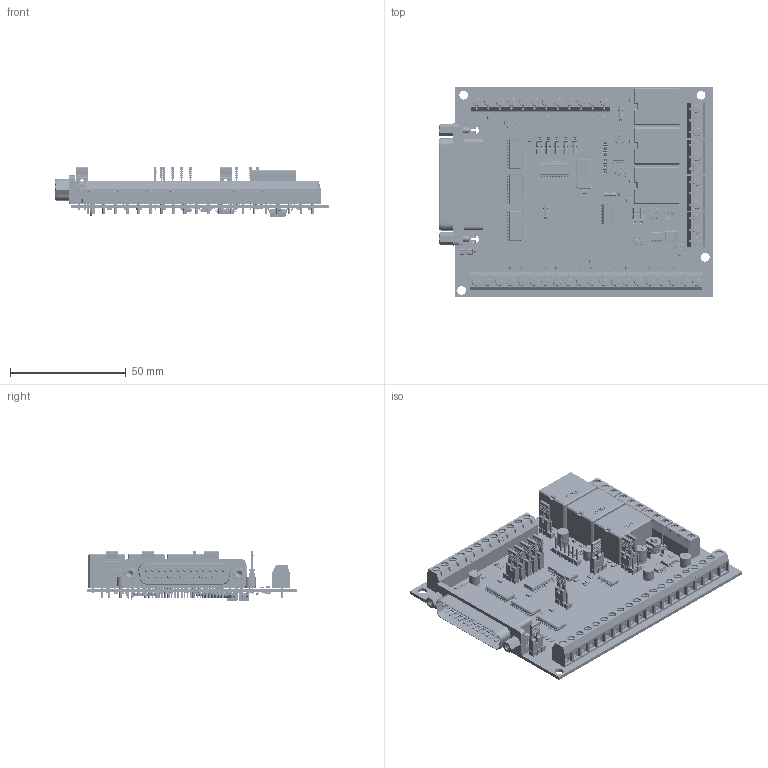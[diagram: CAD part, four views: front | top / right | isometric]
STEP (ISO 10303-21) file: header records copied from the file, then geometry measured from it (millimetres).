
FILE_DESCRIPTION(('KiCad electronic assembly'),'2;1');
FILE_NAME('C11G_9.3.step','2026-06-09T10:18:16',('Pcbnew'),('Kicad'), 'Open CASCADE STEP processor 7.9','KiCad to STEP converter','Unknown' );
FILE_SCHEMA(('AUTOMOTIVE_DESIGN { 1 0 10303 214 1 1 1 1 }'));
Length unit declared in the file: millimetre
Products named in the file (64): C11G_9.3 1; R SMD 0805; User Library-R SMD 0805_0805 BODY; User Library-R SMD 0805_0805 PAD; User Library-R SMD 0805_0805 OPIS; 444444; User_Library-DG301-5.0-2P12_DG301-5.001; User_Library-DG301-5.0-2P12_DG301-5.0-Blaszka001; User_Library-DG301-5.0-2P12_DG301-5.0-Sruba001; User_Library-DG301-5.0-2P12_DG301-5.0-PIN; LED0805_red; ter-DG301-5.0-3P12_DG301-5.0; User_Library-DG301-5.0-3P12_DG301-5.001; User_Library-DG301-5.0-3P12_DG301-5.0-Blaszka001; User_Library-DG301-5.0-3P12_DG301-5.0-PIN002; User_Library-DG301-5.0-3P12_DG301-5.0-Sruba; PIC 12F508; SIP3; User Library-Mini Jumper; C0805; 74585_1; 74585_2; 74585_3; 74585_4; 74585_5; 74585_6; NS-PDSO-20; Cap electrolitic radial 5x7; User Library-Cap electrolitic radial 5x7_Case; User Library-Cap electrolitic radial 5x7_Minus; User Library-Cap electrolitic radial 5x7_Top; User Library-Cap electrolitic radial 5x7_Pins; User Library-Cap electrolitic radial 5x7_Bottom; Cap electrolitic radial 5x5; User Library-Cap electrolitic radial 5x5_Case; User Library-Cap electrolitic radial 5x5_Minus; User Library-Cap electrolitic radial 5x5_Top; User Library-Cap electrolitic radial 5x5_Pins; User Library-Cap electrolitic radial 5x5_Bottom; RELAY  12MMx12MM SQUARE-1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
Assembly tree (255 placements, depth 3):
  C11G_9.3 1
    R SMD 0805  x73
      User Library-R SMD 0805_0805 BODY
      User Library-R SMD 0805_0805 PAD
      User Library-R SMD 0805_0805 OPIS
    444444  x16
      User_Library-DG301-5.0-2P12_DG301-5.001
      User_Library-DG301-5.0-2P12_DG301-5.0-Blaszka001
      User_Library-DG301-5.0-2P12_DG301-5.0-Sruba001
      User_Library-DG301-5.0-2P12_DG301-5.0-PIN
    LED0805_red  x21
    ter-DG301-5.0-3P12_DG301-5.0  x4
      User_Library-DG301-5.0-3P12_DG301-5.001
      User_Library-DG301-5.0-3P12_DG301-5.0-Blaszka001
      User_Library-DG301-5.0-3P12_DG301-5.0-PIN002
      User_Library-DG301-5.0-3P12_DG301-5.0-Sruba
    PIC 12F508
    SIP3  x13
    User Library-Mini Jumper  x11
    C0805  x20
      74585_1
      74585_2
      74585_3
      74585_4
      74585_5
      74585_6
    NS-PDSO-20  x5
    Cap electrolitic radial 5x7  x2
      User Library-Cap electrolitic radial 5x7_Case
      User Library-Cap electrolitic radial 5x7_Minus
      User Library-Cap electrolitic radial 5x7_Top
      User Library-Cap electrolitic radial 5x7_Pins
      User Library-Cap electrolitic radial 5x7_Bottom
    Cap electrolitic radial 5x5  x4
      User Library-Cap electrolitic radial 5x5_Case
      User Library-Cap electrolitic radial 5x5_Minus
      User Library-Cap electrolitic radial 5x5_Top
      User Library-Cap electrolitic radial 5x5_Pins
      User Library-Cap electrolitic radial 5x5_Bottom
    RELAY  12MMx12MM SQUARE-1  x3
    SO14N  x2
      User Library-SO-14N__X2_041A043E0440043F04430441_X0_
      User Library-SO-14N__X2_041C04350442043A0430_X0_
      User Library-SO-14N__X2_041D043E0436043A0430_X0_
    SO8  x2
      User Library-SOIC-8_SOIC-8_Body_1
      User Library-SOIC-8_SOIC-8_Pins_1
    DBPN1M-25
    Trimmer, 3306F-1
      User Library-Trimmer, 3306F-1_1_2
      User Library-Trimmer, 3306F-1_2_2
      User Library-Trimmer, 3306F-1_3_2
      User Library-Trimmer, 3306F-1_4_2
      User Library-Trimmer, 3306F-1_5_2
    LED0805_green
    SO4-1  x2
      938F75B9-451A-4788-A0D5-F34CC658E3B7
    MicroMelf
    SO16
    SO-20W
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Bounding box: 118.58 x 91 x 21.6 mm (x, y, z)
Volume: 51552 mm3; surface area: 78508.7 mm2
Topology: 890 solids, 890 shells, 23580 faces, 59620 edges, 37936 vertices
Faces by surface type: plane 14519, cylinder 4203, bspline 3851, sphere 643, torus 292, cone 70, revolution 2
Full cylindrical faces by diameter (mm): 0.813 x12, 1 x88, 1.016 x67, 1.3 x59, 2.5 x88, 2.8 x44, 3 x44, 3.302 x2, 3.42 x44, 3.5 x44, 3.81 x4
Entity records: 152117 total; most frequent: CARTESIAN_POINT 38400, ORIENTED_EDGE 18736, DIRECTION 17776, EDGE_CURVE 9368, LINE 6076, VECTOR 6076, VERTEX_POINT 6010, AXIS2_PLACEMENT_3D 5849
